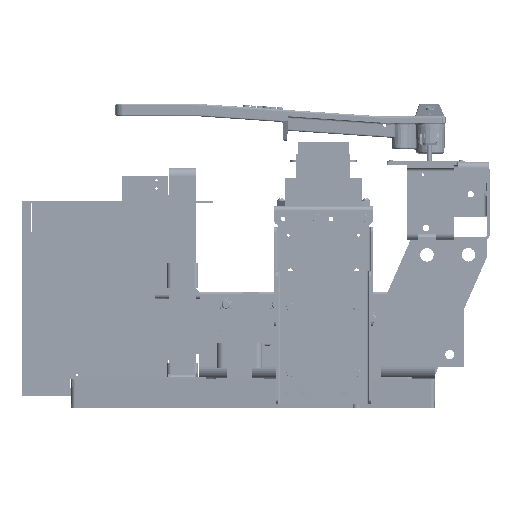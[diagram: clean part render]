
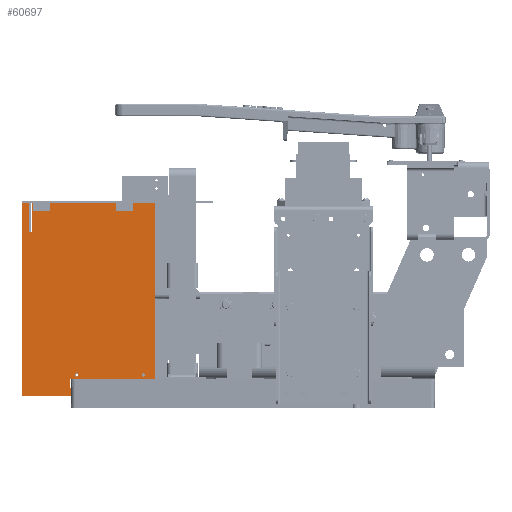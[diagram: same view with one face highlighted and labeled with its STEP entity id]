
A CAD part, left-side view. The second image highlights one B-rep face of the part: STEP entity #60697.
In plain terms, the highlighted planar face has unit normal (-1, 0, 0) as drawn and (0, 0, -1) by its records, which use the part's own axes.
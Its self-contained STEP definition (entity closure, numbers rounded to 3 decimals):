
#3041=FACE_BOUND('',#12641,.T.);
#3042=FACE_BOUND('',#12642,.T.);
#3043=FACE_BOUND('',#12643,.T.);
#3044=FACE_BOUND('',#12644,.T.);
#4934=CIRCLE('',#66792,0.097);
#4936=CIRCLE('',#66795,0.097);
#4938=CIRCLE('',#66798,0.097);
#4940=CIRCLE('',#66801,0.097);
#8825=FACE_OUTER_BOUND('',#12640,.T.);
#12640=EDGE_LOOP('',(#49850,#49851,#49852,#49853,#49854,#49855,#49856,#49857,
#49858,#49859,#49860,#49861));
#12641=EDGE_LOOP('',(#49862));
#12642=EDGE_LOOP('',(#49863));
#12643=EDGE_LOOP('',(#49864));
#12644=EDGE_LOOP('',(#49865));
#17612=LINE('',#102613,#22977);
#17616=LINE('',#102621,#22981);
#17619=LINE('',#102627,#22984);
#17622=LINE('',#102633,#22987);
#17625=LINE('',#102639,#22990);
#17628=LINE('',#102645,#22993);
#17631=LINE('',#102651,#22996);
#17634=LINE('',#102657,#22999);
#17637=LINE('',#102663,#23002);
#17640=LINE('',#102669,#23005);
#17643=LINE('',#102675,#23008);
#17646=LINE('',#102680,#23011);
#22977=VECTOR('',#79314,0.394);
#22981=VECTOR('',#79320,0.394);
#22984=VECTOR('',#79325,0.394);
#22987=VECTOR('',#79330,0.394);
#22990=VECTOR('',#79335,0.394);
#22993=VECTOR('',#79340,0.394);
#22996=VECTOR('',#79345,0.394);
#22999=VECTOR('',#79350,0.394);
#23002=VECTOR('',#79355,0.394);
#23005=VECTOR('',#79360,0.394);
#23008=VECTOR('',#79365,0.394);
#23011=VECTOR('',#79370,0.394);
#28533=VERTEX_POINT('',#102587);
#28535=VERTEX_POINT('',#102593);
#28537=VERTEX_POINT('',#102599);
#28539=VERTEX_POINT('',#102605);
#28541=VERTEX_POINT('',#102611);
#28542=VERTEX_POINT('',#102612);
#28545=VERTEX_POINT('',#102620);
#28547=VERTEX_POINT('',#102626);
#28549=VERTEX_POINT('',#102632);
#28551=VERTEX_POINT('',#102638);
#28553=VERTEX_POINT('',#102644);
#28555=VERTEX_POINT('',#102650);
#28557=VERTEX_POINT('',#102656);
#28559=VERTEX_POINT('',#102662);
#28561=VERTEX_POINT('',#102668);
#28563=VERTEX_POINT('',#102674);
#35942=EDGE_CURVE('',#28533,#28533,#4934,.T.);
#35945=EDGE_CURVE('',#28535,#28535,#4936,.T.);
#35948=EDGE_CURVE('',#28537,#28537,#4938,.T.);
#35951=EDGE_CURVE('',#28539,#28539,#4940,.T.);
#35954=EDGE_CURVE('',#28541,#28542,#17612,.T.);
#35958=EDGE_CURVE('',#28545,#28541,#17616,.T.);
#35961=EDGE_CURVE('',#28547,#28545,#17619,.T.);
#35964=EDGE_CURVE('',#28549,#28547,#17622,.T.);
#35967=EDGE_CURVE('',#28551,#28549,#17625,.T.);
#35970=EDGE_CURVE('',#28553,#28551,#17628,.T.);
#35973=EDGE_CURVE('',#28555,#28553,#17631,.T.);
#35976=EDGE_CURVE('',#28557,#28555,#17634,.T.);
#35979=EDGE_CURVE('',#28559,#28557,#17637,.T.);
#35982=EDGE_CURVE('',#28561,#28559,#17640,.T.);
#35985=EDGE_CURVE('',#28563,#28561,#17643,.T.);
#35988=EDGE_CURVE('',#28542,#28563,#17646,.T.);
#49850=ORIENTED_EDGE('',*,*,#35988,.F.);
#49851=ORIENTED_EDGE('',*,*,#35954,.F.);
#49852=ORIENTED_EDGE('',*,*,#35958,.F.);
#49853=ORIENTED_EDGE('',*,*,#35961,.F.);
#49854=ORIENTED_EDGE('',*,*,#35964,.F.);
#49855=ORIENTED_EDGE('',*,*,#35967,.F.);
#49856=ORIENTED_EDGE('',*,*,#35970,.F.);
#49857=ORIENTED_EDGE('',*,*,#35973,.F.);
#49858=ORIENTED_EDGE('',*,*,#35976,.F.);
#49859=ORIENTED_EDGE('',*,*,#35979,.F.);
#49860=ORIENTED_EDGE('',*,*,#35982,.F.);
#49861=ORIENTED_EDGE('',*,*,#35985,.F.);
#49862=ORIENTED_EDGE('',*,*,#35942,.T.);
#49863=ORIENTED_EDGE('',*,*,#35945,.T.);
#49864=ORIENTED_EDGE('',*,*,#35948,.T.);
#49865=ORIENTED_EDGE('',*,*,#35951,.T.);
#57984=PLANE('',#66816);
#60697=ADVANCED_FACE('',(#8825,#3041,#3042,#3043,#3044),#57984,.F.);
#66792=AXIS2_PLACEMENT_3D('',#102588,#79286,#79287);
#66795=AXIS2_PLACEMENT_3D('',#102594,#79293,#79294);
#66798=AXIS2_PLACEMENT_3D('',#102600,#79300,#79301);
#66801=AXIS2_PLACEMENT_3D('',#102606,#79307,#79308);
#66816=AXIS2_PLACEMENT_3D('',#102683,#79374,#79375);
#79286=DIRECTION('center_axis',(0.,0.,1.));
#79287=DIRECTION('ref_axis',(-1.,0.,0.));
#79293=DIRECTION('center_axis',(0.,0.,1.));
#79294=DIRECTION('ref_axis',(-1.,0.,0.));
#79300=DIRECTION('center_axis',(0.,0.,1.));
#79301=DIRECTION('ref_axis',(-1.,0.,0.));
#79307=DIRECTION('center_axis',(0.,0.,1.));
#79308=DIRECTION('ref_axis',(-1.,0.,0.));
#79314=DIRECTION('',(1.,0.,0.));
#79320=DIRECTION('',(0.,1.,0.));
#79325=DIRECTION('',(1.,0.,0.));
#79330=DIRECTION('',(0.,-1.,0.));
#79335=DIRECTION('',(-1.,0.,0.));
#79340=DIRECTION('',(0.,-1.,0.));
#79345=DIRECTION('',(1.,0.,0.));
#79350=DIRECTION('',(0.,-1.,0.));
#79355=DIRECTION('',(-1.,0.,0.));
#79360=DIRECTION('',(0.,1.,0.));
#79365=DIRECTION('',(1.,0.,0.));
#79370=DIRECTION('',(0.,-1.,0.));
#79374=DIRECTION('center_axis',(0.,0.,1.));
#79375=DIRECTION('ref_axis',(1.,0.,0.));
#102587=CARTESIAN_POINT('',(0.347,2.,0.));
#102588=CARTESIAN_POINT('Origin',(0.25,2.,0.));
#102593=CARTESIAN_POINT('',(0.347,7.,0.));
#102594=CARTESIAN_POINT('Origin',(0.25,7.,0.));
#102599=CARTESIAN_POINT('',(10.472,0.688,0.));
#102600=CARTESIAN_POINT('Origin',(10.375,0.688,0.));
#102605=CARTESIAN_POINT('',(10.472,4.688,0.));
#102606=CARTESIAN_POINT('Origin',(10.375,4.688,0.));
#102611=CARTESIAN_POINT('',(10.625,5.094,0.));
#102612=CARTESIAN_POINT('',(11.156,5.094,0.));
#102613=CARTESIAN_POINT('',(10.625,5.094,0.));
#102620=CARTESIAN_POINT('',(10.625,0.,0.));
#102621=CARTESIAN_POINT('',(10.625,0.,0.));
#102626=CARTESIAN_POINT('',(0.,0.,0.));
#102627=CARTESIAN_POINT('',(0.,0.,0.));
#102632=CARTESIAN_POINT('',(0.,7.422,0.));
#102633=CARTESIAN_POINT('',(0.,7.422,0.));
#102638=CARTESIAN_POINT('',(1.75,7.422,0.));
#102639=CARTESIAN_POINT('',(1.75,7.422,0.));
#102644=CARTESIAN_POINT('',(1.75,7.578,0.));
#102645=CARTESIAN_POINT('',(1.75,7.578,0.));
#102650=CARTESIAN_POINT('',(0.,7.578,0.));
#102651=CARTESIAN_POINT('',(0.,7.578,0.));
#102656=CARTESIAN_POINT('',(0.,8.,0.));
#102657=CARTESIAN_POINT('',(0.,8.,0.));
#102662=CARTESIAN_POINT('',(11.625,8.,0.));
#102663=CARTESIAN_POINT('',(11.625,8.,0.));
#102668=CARTESIAN_POINT('',(11.625,4.719,0.));
#102669=CARTESIAN_POINT('',(11.625,4.719,0.));
#102674=CARTESIAN_POINT('',(11.156,4.719,0.));
#102675=CARTESIAN_POINT('',(11.156,4.719,0.));
#102680=CARTESIAN_POINT('',(11.156,5.094,0.));
#102683=CARTESIAN_POINT('Origin',(5.401,4.41,0.));
